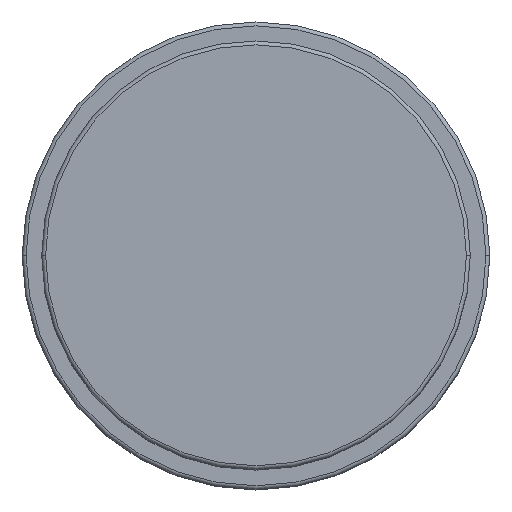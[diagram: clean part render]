
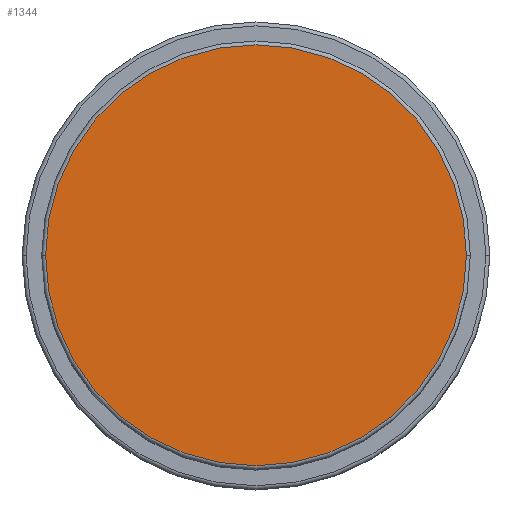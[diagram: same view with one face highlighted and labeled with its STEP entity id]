
A CAD part, top view. The second image highlights one B-rep face of the part: STEP entity #1344.
In plain terms, the highlighted planar face has unit normal (0, 0, 1).
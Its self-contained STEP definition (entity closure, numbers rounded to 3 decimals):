
#368 = AXIS2_PLACEMENT_3D ( 'NONE', #531, #2516, #1377 ) ;
#531 = CARTESIAN_POINT ( 'NONE',  ( 0., 0., 66. ) ) ;
#549 = CARTESIAN_POINT ( 'NONE',  ( 0., 0., 66. ) ) ;
#651 = CIRCLE ( 'NONE', #1804, 27. ) ;
#750 = EDGE_CURVE ( 'NONE', #4202, #1567, #651, .T. ) ;
#880 = CIRCLE ( 'NONE', #4206, 27. ) ;
#955 = ORIENTED_EDGE ( 'NONE', *, *, #1067, .T. ) ;
#1067 = EDGE_CURVE ( 'NONE', #1567, #4202, #880, .T. ) ;
#1344 = ADVANCED_FACE ( 'NONE', ( #4041 ), #2427, .T. ) ;
#1377 = DIRECTION ( 'NONE',  ( 1., 0., 0. ) ) ;
#1452 = CARTESIAN_POINT ( 'NONE',  ( 0., 0., 66. ) ) ;
#1567 = VERTEX_POINT ( 'NONE', #1613 ) ;
#1613 = CARTESIAN_POINT ( 'NONE',  ( 27., 0., 66. ) ) ;
#1804 = AXIS2_PLACEMENT_3D ( 'NONE', #549, #4314, #3934 ) ;
#1830 = DIRECTION ( 'NONE',  ( 0., 0., 1. ) ) ;
#2427 = PLANE ( 'NONE',  #368 ) ;
#2508 = ORIENTED_EDGE ( 'NONE', *, *, #750, .T. ) ;
#2516 = DIRECTION ( 'NONE',  ( 0., 0., 1. ) ) ;
#2737 = CARTESIAN_POINT ( 'NONE',  ( -27., 0., 66. ) ) ;
#2805 = EDGE_LOOP ( 'NONE', ( #955, #2508 ) ) ;
#3934 = DIRECTION ( 'NONE',  ( 1., 0., 0. ) ) ;
#4041 = FACE_OUTER_BOUND ( 'NONE', #2805, .T. ) ;
#4202 = VERTEX_POINT ( 'NONE', #2737 ) ;
#4206 = AXIS2_PLACEMENT_3D ( 'NONE', #1452, #1830, #4476 ) ;
#4314 = DIRECTION ( 'NONE',  ( 0., 0., 1. ) ) ;
#4476 = DIRECTION ( 'NONE',  ( 1., 0., 0. ) ) ;
